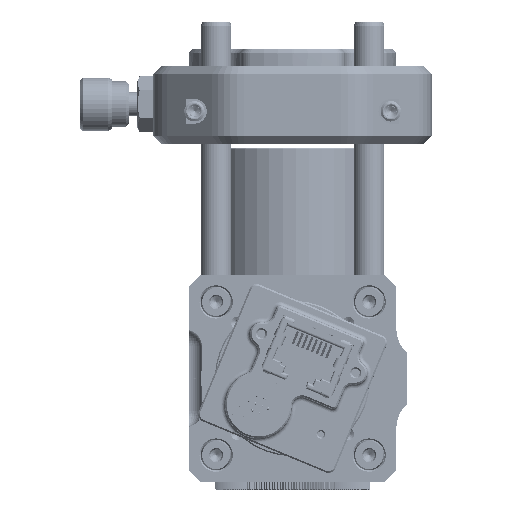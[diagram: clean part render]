
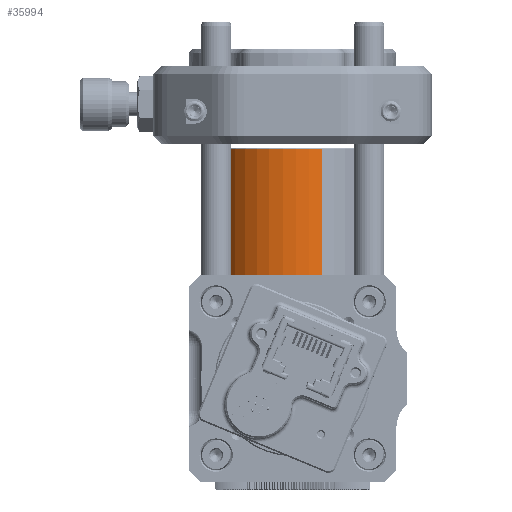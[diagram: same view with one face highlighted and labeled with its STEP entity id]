
A CAD part, left-side view. The second image highlights one B-rep face of the part: STEP entity #35994.
In plain terms, the highlighted cylindrical face has radius 15.24 mm (diameter 30.48 mm), a partial arc.
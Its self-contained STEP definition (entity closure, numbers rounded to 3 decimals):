
#9859 = VERTEX_POINT ( 'NONE', #31135 ) ;
#11081 = DIRECTION ( 'NONE',  ( -1., 0., 0. ) ) ;
#23943 = ORIENTED_EDGE ( 'NONE', *, *, #66829, .T. ) ;
#25713 = DIRECTION ( 'NONE',  ( 1., 0., 0. ) ) ;
#31135 = CARTESIAN_POINT ( 'NONE',  ( -25.908, 0., 15.24 ) ) ;
#35440 = CARTESIAN_POINT ( 'NONE',  ( -0.254, 0., -15.24 ) ) ;
#35994 = ADVANCED_FACE ( 'NONE', ( #295574 ), #149986, .T. ) ;
#39377 = DIRECTION ( 'NONE',  ( 1., 0., 0. ) ) ;
#57907 = EDGE_LOOP ( 'NONE', ( #181145, #288461, #23943, #281095 ) ) ;
#66829 = EDGE_CURVE ( 'NONE', #338305, #70333, #313727, .T. ) ;
#70333 = VERTEX_POINT ( 'NONE', #35440 ) ;
#71018 = CARTESIAN_POINT ( 'NONE',  ( -25.908, 0., 0. ) ) ;
#76827 = AXIS2_PLACEMENT_3D ( 'NONE', #266865, #25713, #259368 ) ;
#91226 = CARTESIAN_POINT ( 'NONE',  ( -25.908, 0., -15.24 ) ) ;
#149986 = CYLINDRICAL_SURFACE ( 'NONE', #76827, 15.24 ) ;
#150446 = CARTESIAN_POINT ( 'NONE',  ( 0., 0., -15.24 ) ) ;
#152329 = LINE ( 'NONE', #150446, #252747 ) ;
#177049 = CIRCLE ( 'NONE', #256623, 15.24 ) ;
#177131 = CARTESIAN_POINT ( 'NONE',  ( 0., 0., 15.24 ) ) ;
#181145 = ORIENTED_EDGE ( 'NONE', *, *, #363356, .T. ) ;
#205891 = LINE ( 'NONE', #177131, #278548 ) ;
#210917 = DIRECTION ( 'NONE',  ( 0., 0., 1. ) ) ;
#251851 = VERTEX_POINT ( 'NONE', #91226 ) ;
#252747 = VECTOR ( 'NONE', #39377, 1000. ) ;
#256623 = AXIS2_PLACEMENT_3D ( 'NONE', #71018, #358397, #210917 ) ;
#259368 = DIRECTION ( 'NONE',  ( 0., 0., -1. ) ) ;
#265258 = DIRECTION ( 'NONE',  ( 1., 0., 0. ) ) ;
#266865 = CARTESIAN_POINT ( 'NONE',  ( 0., 0., 0. ) ) ;
#275289 = CARTESIAN_POINT ( 'NONE',  ( -0.254, 0., 0. ) ) ;
#278548 = VECTOR ( 'NONE', #265258, 1000. ) ;
#281095 = ORIENTED_EDGE ( 'NONE', *, *, #352137, .F. ) ;
#288461 = ORIENTED_EDGE ( 'NONE', *, *, #338195, .T. ) ;
#295574 = FACE_OUTER_BOUND ( 'NONE', #57907, .T. ) ;
#307775 = DIRECTION ( 'NONE',  ( 0., 0., -1. ) ) ;
#313727 = CIRCLE ( 'NONE', #362710, 15.24 ) ;
#338195 = EDGE_CURVE ( 'NONE', #9859, #338305, #205891, .T. ) ;
#338305 = VERTEX_POINT ( 'NONE', #366538 ) ;
#352137 = EDGE_CURVE ( 'NONE', #251851, #70333, #152329, .T. ) ;
#358397 = DIRECTION ( 'NONE',  ( 1., 0., 0. ) ) ;
#362710 = AXIS2_PLACEMENT_3D ( 'NONE', #275289, #11081, #307775 ) ;
#363356 = EDGE_CURVE ( 'NONE', #251851, #9859, #177049, .T. ) ;
#366538 = CARTESIAN_POINT ( 'NONE',  ( -0.254, 0., 15.24 ) ) ;
